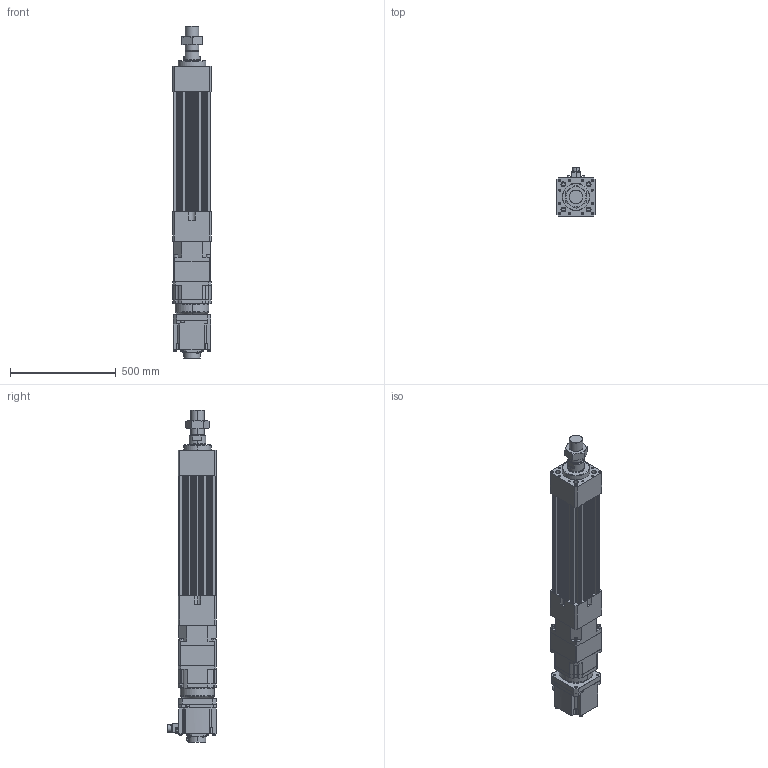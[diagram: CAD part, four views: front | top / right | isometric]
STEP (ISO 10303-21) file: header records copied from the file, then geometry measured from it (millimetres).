
FILE_DESCRIPTION (( 'STEP AP203' ), '1' );
FILE_NAME ('HES180HS-S250-W050G00-M.STEP', '2023-02-01T09:37:12', ( 'tms' ), ( '' ), 'SwSTEP 2.0', 'SolidWorks 2013', '' );
FILE_SCHEMA (( 'CONFIG_CONTROL_DESIGN' ));
Length unit declared in the file: millimetre
Products named in the file (9): HG-SR502; AB1801; M64X2.0P; HES180HS-S250-W050G00-M; HES180-S250-G180; P1301600001; AB180-003[HG-SR702B]; HES180 ROD M ST250; P0403600401
Assembly tree (8 placements, depth 3):
  HES180HS-S250-W050G00-M
    HES180-S250-G180
    HES180 ROD M ST250
    M64X2.0P
    AB180-003[HG-SR702B]
      AB1801
      P1301600001
      P0403600401
    HG-SR502
Bounding box: 180 x 230.85 x 1567 mm (x, y, z)
Volume: 23316256.5 mm3; surface area: 2135525.2 mm2
Topology: 4 solids, 23 shells, 1534 faces, 3945 edges, 2546 vertices
Faces by surface type: cylinder 693, plane 600, cone 174, bspline 63, torus 4
Entity records: 55246 total; most frequent: CARTESIAN_POINT 16431, DIRECTION 8177, ORIENTED_EDGE 7750, EDGE_CURVE 3899, AXIS2_PLACEMENT_3D 3072, VERTEX_POINT 2546, VECTOR 2033, LINE 2033
